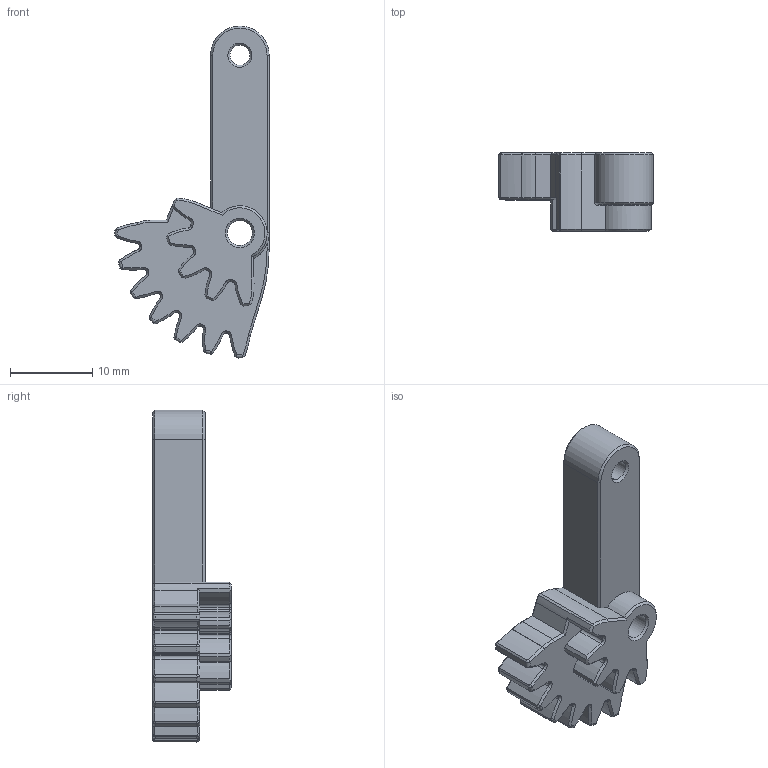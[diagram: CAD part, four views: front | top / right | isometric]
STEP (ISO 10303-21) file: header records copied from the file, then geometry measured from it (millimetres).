
FILE_DESCRIPTION(/* description */ ('STEP AP242','CAx-IF Rec.Pracs.---Representation and Presentation of Product Manufacturing Information (PMI)---4.0---2014-10-13','CAx-IF Rec.Pracs.---3D Tessellated Geometry---0.4---2014-09-14','2;1'),/* implementation_level */ '2;1');
FILE_NAME(/* name */ '6367aa250f60637f9a1aef3c',/* time_stamp */ '2022-11-06T12:35:50+00:00',/* author */ (''),/* organization */ (''),/* preprocessor_version */ 'ST-DEVELOPER v18.102',/* originating_system */ ' ',/* authorisation */ ' ');
FILE_SCHEMA (('AP242_MANAGED_MODEL_BASED_3D_ENGINEERING_MIM_LF { 1 0 10303 442 1 1 4 }'));
Length unit declared in the file: metre
Products named in the file (1): Gear Arm Right
Bounding box: 18.74 x 9.53 x 40.33 mm (x, y, z)
Volume: 2588.2 mm3; surface area: 1806.7 mm2
Topology: 1 solids, 1 shells, 277 faces, 667 edges, 392 vertices
Faces by surface type: cone 109, cylinder 75, plane 51, bspline 28, torus 14
Full cylindrical faces by diameter (mm): 2.413 x1, 3.048 x1
Entity records: 8229 total; most frequent: CARTESIAN_POINT 1988, ORIENTED_EDGE 1320, DIRECTION 1291, EDGE_CURVE 660, AXIS2_PLACEMENT_3D 526, VERTEX_POINT 391, EDGE_LOOP 287, FACE_BOUND 287
